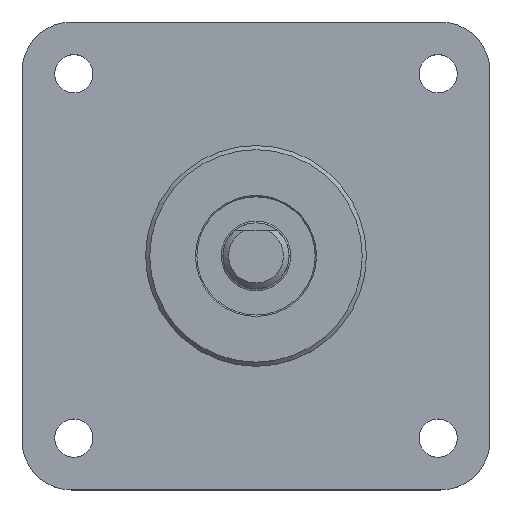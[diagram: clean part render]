
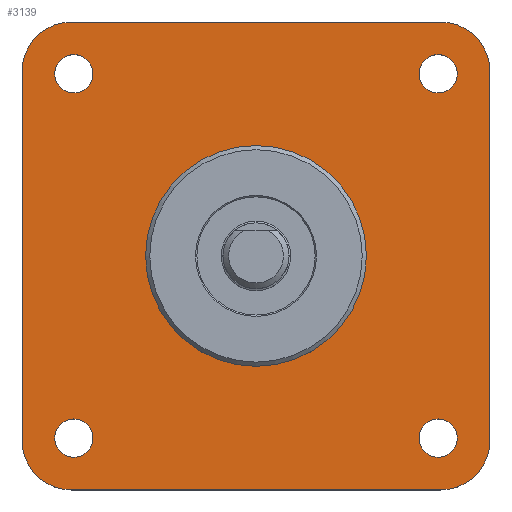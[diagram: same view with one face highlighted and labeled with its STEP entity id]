
A CAD part, top view. The second image highlights one B-rep face of the part: STEP entity #3139.
In plain terms, the highlighted planar face has unit normal (0, 0, 1).
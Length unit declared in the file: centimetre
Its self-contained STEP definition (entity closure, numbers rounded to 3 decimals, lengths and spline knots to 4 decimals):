
#163=VECTOR('',#5060,1.);
#164=VECTOR('',#5063,1.);
#165=VECTOR('',#5066,1.);
#166=VECTOR('',#5069,1.);
#276=LINE('',#3985,#163);
#277=LINE('',#3990,#164);
#278=LINE('',#3994,#165);
#279=LINE('',#3998,#166);
#501=PLANE('',#3431);
#621=VERTEX_POINT('',#3976);
#622=VERTEX_POINT('',#3978);
#623=VERTEX_POINT('',#3980);
#624=VERTEX_POINT('',#3982);
#625=VERTEX_POINT('',#3984);
#626=VERTEX_POINT('',#3986);
#627=VERTEX_POINT('',#3987);
#628=VERTEX_POINT('',#3989);
#629=VERTEX_POINT('',#3991);
#630=VERTEX_POINT('',#3993);
#631=VERTEX_POINT('',#3995);
#632=VERTEX_POINT('',#3997);
#633=VERTEX_POINT('',#3999);
#925=CIRCLE('',#3432,1.5875);
#926=CIRCLE('',#3433,0.275);
#927=CIRCLE('',#3434,0.275);
#928=CIRCLE('',#3435,0.275);
#929=CIRCLE('',#3436,0.275);
#930=CIRCLE('',#3437,0.71);
#931=CIRCLE('',#3438,0.71);
#932=CIRCLE('',#3439,0.71);
#933=CIRCLE('',#3440,0.71);
#1169=EDGE_CURVE('',#621,#621,#925,.T.);
#1170=EDGE_CURVE('',#622,#622,#926,.T.);
#1171=EDGE_CURVE('',#623,#623,#927,.T.);
#1172=EDGE_CURVE('',#624,#624,#928,.T.);
#1173=EDGE_CURVE('',#625,#625,#929,.T.);
#1174=EDGE_CURVE('',#626,#627,#276,.T.);
#1175=EDGE_CURVE('',#627,#628,#930,.T.);
#1176=EDGE_CURVE('',#628,#629,#277,.T.);
#1177=EDGE_CURVE('',#629,#630,#931,.T.);
#1178=EDGE_CURVE('',#630,#631,#278,.T.);
#1179=EDGE_CURVE('',#631,#632,#932,.T.);
#1180=EDGE_CURVE('',#632,#633,#279,.T.);
#1181=EDGE_CURVE('',#633,#626,#933,.T.);
#1553=ORIENTED_EDGE('',*,*,#1169,.T.);
#1554=ORIENTED_EDGE('',*,*,#1170,.F.);
#1555=ORIENTED_EDGE('',*,*,#1171,.F.);
#1556=ORIENTED_EDGE('',*,*,#1172,.F.);
#1557=ORIENTED_EDGE('',*,*,#1173,.F.);
#1558=ORIENTED_EDGE('',*,*,#1174,.T.);
#1559=ORIENTED_EDGE('',*,*,#1175,.T.);
#1560=ORIENTED_EDGE('',*,*,#1176,.T.);
#1561=ORIENTED_EDGE('',*,*,#1177,.T.);
#1562=ORIENTED_EDGE('',*,*,#1178,.T.);
#1563=ORIENTED_EDGE('',*,*,#1179,.T.);
#1564=ORIENTED_EDGE('',*,*,#1180,.T.);
#1565=ORIENTED_EDGE('',*,*,#1181,.T.);
#2301=EDGE_LOOP('',(#1553));
#2302=EDGE_LOOP('',(#1554));
#2303=EDGE_LOOP('',(#1555));
#2304=EDGE_LOOP('',(#1556));
#2305=EDGE_LOOP('',(#1557));
#2306=EDGE_LOOP('',(#1558,#1559,#1560,#1561,#1562,#1563,#1564,#1565));
#2725=FACE_BOUND('',#2301,.T.);
#2726=FACE_BOUND('',#2302,.T.);
#2727=FACE_BOUND('',#2303,.T.);
#2728=FACE_BOUND('',#2304,.T.);
#2729=FACE_BOUND('',#2305,.T.);
#2730=FACE_BOUND('',#2306,.T.);
#3139=ADVANCED_FACE('',(#2725,#2726,#2727,#2728,#2729,#2730),#501,.T.);
#3431=AXIS2_PLACEMENT_3D('',#3974,#5049,$);
#3432=AXIS2_PLACEMENT_3D('',#3975,#5050,#5051);
#3433=AXIS2_PLACEMENT_3D('',#3977,#5052,#5053);
#3434=AXIS2_PLACEMENT_3D('',#3979,#5054,#5055);
#3435=AXIS2_PLACEMENT_3D('',#3981,#5056,#5057);
#3436=AXIS2_PLACEMENT_3D('',#3983,#5058,#5059);
#3437=AXIS2_PLACEMENT_3D('',#3988,#5061,#5062);
#3438=AXIS2_PLACEMENT_3D('',#3992,#5064,#5065);
#3439=AXIS2_PLACEMENT_3D('',#3996,#5067,#5068);
#3440=AXIS2_PLACEMENT_3D('',#4000,#5070,#5071);
#3974=CARTESIAN_POINT('',(0.,0.,
0.));
#3975=CARTESIAN_POINT('',(0.,0.,0.));
#3976=CARTESIAN_POINT('',(1.5875,0.,0.));
#3977=CARTESIAN_POINT('',(2.62,-2.62,0.));
#3978=CARTESIAN_POINT('',(2.895,-2.62,0.));
#3979=CARTESIAN_POINT('',(2.62,2.62,0.));
#3980=CARTESIAN_POINT('',(2.895,2.62,0.));
#3981=CARTESIAN_POINT('',(-2.62,2.62,0.));
#3982=CARTESIAN_POINT('',(-2.345,2.62,0.));
#3983=CARTESIAN_POINT('',(-2.62,-2.62,0.));
#3984=CARTESIAN_POINT('',(-2.345,-2.62,0.));
#3985=CARTESIAN_POINT('',(-3.3655,2.6555,0.));
#3986=CARTESIAN_POINT('',(-3.3655,2.6555,0.));
#3987=CARTESIAN_POINT('',(-3.3655,-2.6555,0.));
#3988=CARTESIAN_POINT('',(-2.6555,-2.6555,0.));
#3989=CARTESIAN_POINT('',(-2.6555,-3.3655,0.));
#3990=CARTESIAN_POINT('',(-2.6555,-3.3655,0.));
#3991=CARTESIAN_POINT('',(2.6555,-3.3655,0.));
#3992=CARTESIAN_POINT('',(2.6555,-2.6555,0.));
#3993=CARTESIAN_POINT('',(3.3655,-2.6555,0.));
#3994=CARTESIAN_POINT('',(3.3655,-2.6555,0.));
#3995=CARTESIAN_POINT('',(3.3655,2.6555,0.));
#3996=CARTESIAN_POINT('',(2.6555,2.6555,0.));
#3997=CARTESIAN_POINT('',(2.6555,3.3655,0.));
#3998=CARTESIAN_POINT('',(2.6555,3.3655,0.));
#3999=CARTESIAN_POINT('',(-2.6555,3.3655,0.));
#4000=CARTESIAN_POINT('',(-2.6555,2.6555,0.));
#5049=DIRECTION('',(0.,0.,1.));
#5050=DIRECTION('',(0.,0.,-1.));
#5051=DIRECTION('',(1.588,0.,0.));
#5052=DIRECTION('',(0.,0.,1.));
#5053=DIRECTION('',(0.275,0.,0.));
#5054=DIRECTION('',(0.,0.,1.));
#5055=DIRECTION('',(0.275,0.,0.));
#5056=DIRECTION('',(0.,0.,1.));
#5057=DIRECTION('',(0.275,0.,0.));
#5058=DIRECTION('',(0.,0.,1.));
#5059=DIRECTION('',(0.275,0.,0.));
#5060=DIRECTION('',(0.,-1.,0.));
#5061=DIRECTION('',(0.,0.,1.));
#5062=DIRECTION('',(0.71,0.,0.));
#5063=DIRECTION('',(1.,0.,0.));
#5064=DIRECTION('',(0.,0.,1.));
#5065=DIRECTION('',(0.71,0.,0.));
#5066=DIRECTION('',(0.,1.,0.));
#5067=DIRECTION('',(0.,0.,1.));
#5068=DIRECTION('',(0.71,0.,0.));
#5069=DIRECTION('',(-1.,0.,0.));
#5070=DIRECTION('',(0.,0.,1.));
#5071=DIRECTION('',(0.71,0.,0.));
